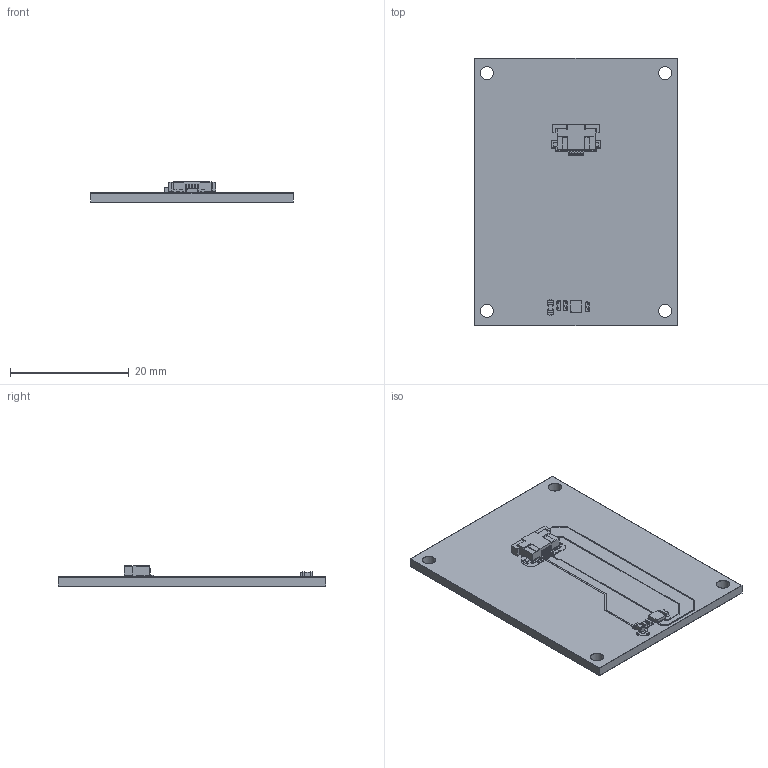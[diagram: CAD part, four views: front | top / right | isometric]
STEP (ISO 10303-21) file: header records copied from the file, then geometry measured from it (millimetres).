
FILE_DESCRIPTION(('KiCad electronic assembly'),'2;1');
FILE_NAME('GnieSat_CanSat_2024_2025_Magnetometer_PCB.step', '2025-03-03T23:02:38',('Pcbnew'),('Kicad'), 'Open CASCADE STEP processor 7.8','KiCad to STEP converter','Unknown' );
FILE_SCHEMA(('AUTOMOTIVE_DESIGN { 1 0 10303 214 1 1 1 1 }'));
Length unit declared in the file: millimetre
Products named in the file (10): GnieSat_CanSat_2024_2025_Magnetometer_PCB 1; C_0402_1005Metric; C_0603_1608Metric; GnieSat_CanSat_2024_2025_Magnetometer_PCB 1.4; IIS2MDCTR; GnieSat_CanSat_2024_2025_Magnetometer_PCB_copper; GnieSat_CanSat_2024_2025_Magnetometer_PCB_pad; GnieSat_CanSat_2024_2025_Magnetometer_PCB_via; GnieSat_CanSat_2024_2025_Magnetometer_PCB_soldermask; GnieSat_CanSat_2024_2025_Magnetometer_PCB_PCB
Assembly tree (11 placements, depth 2):
  GnieSat_CanSat_2024_2025_Magnetometer_PCB 1
    C_0402_1005Metric  x3
    C_0603_1608Metric
    GnieSat_CanSat_2024_2025_Magnetometer_PCB 1.4
    IIS2MDCTR
    GnieSat_CanSat_2024_2025_Magnetometer_PCB_copper
    GnieSat_CanSat_2024_2025_Magnetometer_PCB_pad
    GnieSat_CanSat_2024_2025_Magnetometer_PCB_via
    GnieSat_CanSat_2024_2025_Magnetometer_PCB_soldermask
    GnieSat_CanSat_2024_2025_Magnetometer_PCB_PCB
Bounding box: 34 x 45 x 3.52 mm (x, y, z)
Volume: 2390.5 mm3; surface area: 9624.6 mm2
Topology: 70 solids, 72 shells, 1024 faces, 2861 edges, 2000 vertices
Faces by surface type: plane 845, cylinder 179
Full cylindrical faces by diameter (mm): 0.25 x10, 0.3 x40, 2.2 x4, 2.81 x4
Entity records: 32156 total; most frequent: CARTESIAN_POINT 5601, ORIENTED_EDGE 5154, DIRECTION 5027, EDGE_CURVE 2717, LINE 2367, VECTOR 2367, VERTEX_POINT 1904, AXIS2_PLACEMENT_3D 1330
